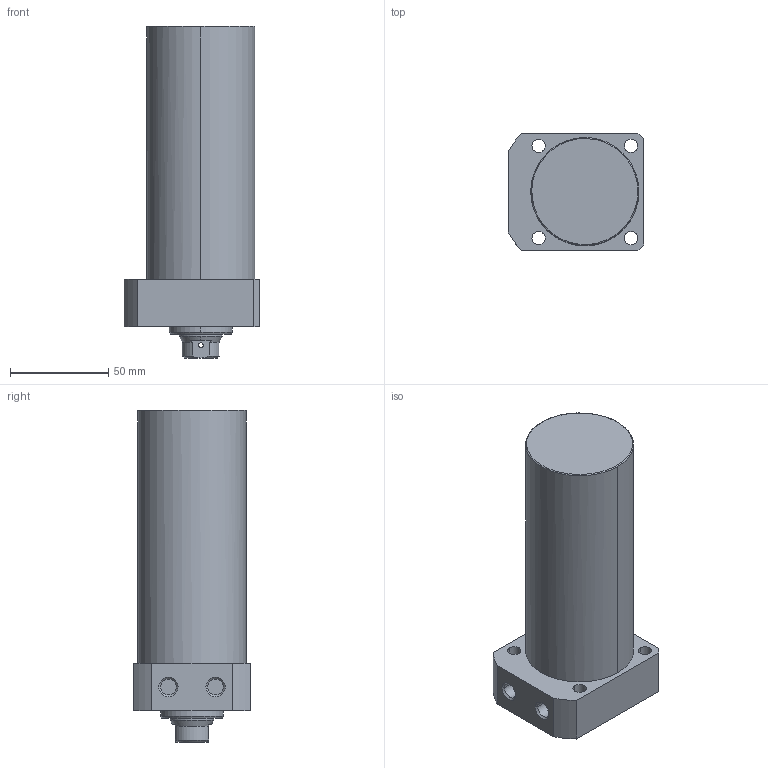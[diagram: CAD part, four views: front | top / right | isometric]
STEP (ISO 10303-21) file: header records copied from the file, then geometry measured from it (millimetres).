
FILE_DESCRIPTION((' '),'2;1');
FILE_NAME( 'TLLR-055CB-100.STEP.stp', '2025-10-24T16:34:45', (' '), ('--- Datakit www.datakit.com---'), ' Datakit CrossCadWare V2024.1 Dec 21 2023', 'Mastercam 2025', ' ');
FILE_SCHEMA(('AUTOMOTIVE_DESIGN { 1 0 10303 214 1 1 1 1 }'));
Length unit declared in the file: millimetre
Products named in the file (1): TLLR-055CB-100
Bounding box: 69 x 60 x 169 mm (x, y, z)
Volume: 404067.3 mm3; surface area: 40625.1 mm2
Topology: 1 solids, 1 shells, 67 faces, 197 edges, 136 vertices
Faces by surface type: cylinder 32, plane 19, cone 14, torus 2
Entity records: 3058 total; most frequent: CARTESIAN_POINT 1139, DIRECTION 426, ORIENTED_EDGE 390, EDGE_CURVE 195, AXIS2_PLACEMENT_3D 179, VERTEX_POINT 136, CIRCLE 111, EDGE_LOOP 85
